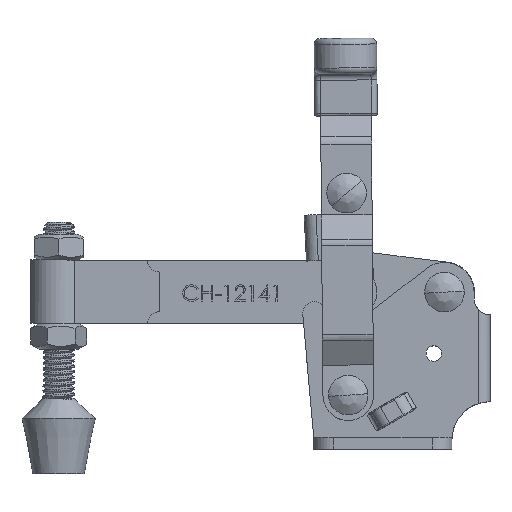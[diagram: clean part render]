
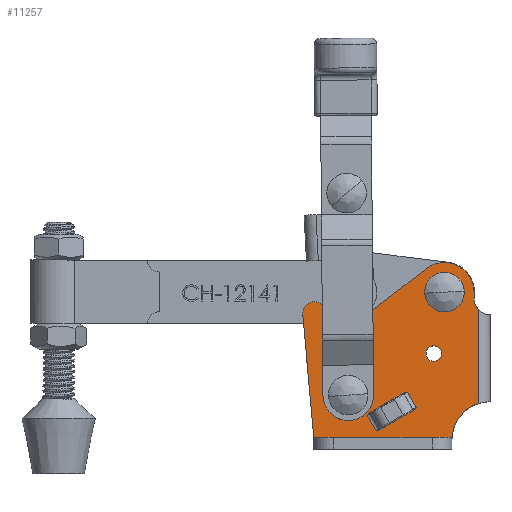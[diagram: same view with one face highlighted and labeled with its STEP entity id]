
A CAD part, top view. The second image highlights one B-rep face of the part: STEP entity #11257.
In plain terms, the highlighted planar face has unit normal (0, 0, 1).
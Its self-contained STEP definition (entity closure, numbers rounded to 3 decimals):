
#350=B_SPLINE_CURVE_WITH_KNOTS('',3,(#15746,#15747,#15748,#15749),
 .UNSPECIFIED.,.F.,.F.,(4,4),(-0.085,0.),.UNSPECIFIED.);
#351=B_SPLINE_CURVE_WITH_KNOTS('',3,(#15753,#15754,#15755,#15756),
 .UNSPECIFIED.,.F.,.F.,(4,4),(-0.278,-0.193),
 .UNSPECIFIED.);
#352=B_SPLINE_CURVE_WITH_KNOTS('',3,(#15760,#15761,#15762,#15763),
 .UNSPECIFIED.,.F.,.F.,(4,4),(-0.085,0.),.UNSPECIFIED.);
#353=B_SPLINE_CURVE_WITH_KNOTS('',3,(#15766,#15767,#15768,#15769),
 .UNSPECIFIED.,.F.,.F.,(4,4),(-0.278,-0.193),
 .UNSPECIFIED.);
#757=FACE_BOUND('',#1757,.T.);
#758=FACE_BOUND('',#1758,.T.);
#759=FACE_BOUND('',#1759,.T.);
#760=FACE_BOUND('',#1760,.T.);
#835=PLANE('',#12130);
#1127=FACE_OUTER_BOUND('',#1756,.T.);
#1756=EDGE_LOOP('',(#7713,#7714,#7715,#7716,#7717,#7718,#7719,#7720,#7721,
#7722,#7723,#7724));
#1757=EDGE_LOOP('',(#7725,#7726));
#1758=EDGE_LOOP('',(#7727,#7728));
#1759=EDGE_LOOP('',(#7729,#7730));
#1760=EDGE_LOOP('',(#7731,#7732,#7733,#7734,#7735,#7736,#7737,#7738));
#2470=LINE('',#15723,#3432);
#2471=LINE('',#15725,#3433);
#2472=LINE('',#15729,#3434);
#2473=LINE('',#15733,#3435);
#2474=LINE('',#15737,#3436);
#2475=LINE('',#15740,#3437);
#2476=LINE('',#15741,#3438);
#2477=LINE('',#15744,#3439);
#2478=LINE('',#15751,#3440);
#2479=LINE('',#15758,#3441);
#2480=LINE('',#15765,#3442);
#3432=VECTOR('',#13067,1000.);
#3433=VECTOR('',#13068,1000.);
#3434=VECTOR('',#13071,1000.);
#3435=VECTOR('',#13074,1000.);
#3436=VECTOR('',#13077,1000.);
#3437=VECTOR('',#13080,1000.);
#3438=VECTOR('',#13081,1000.);
#3439=VECTOR('',#13082,1000.);
#3440=VECTOR('',#13083,1000.);
#3441=VECTOR('',#13084,1000.);
#3442=VECTOR('',#13085,1000.);
#4397=CIRCLE('',#12105,3.);
#4399=CIRCLE('',#12108,1.95);
#4402=CIRCLE('',#12111,1.95);
#4403=CIRCLE('',#12113,3.2);
#4406=CIRCLE('',#12116,3.2);
#4407=CIRCLE('',#12118,3.2);
#4410=CIRCLE('',#12121,3.2);
#4417=CIRCLE('',#12131,9.5);
#4418=CIRCLE('',#12132,4.);
#4419=CIRCLE('',#12133,7.5);
#4420=CIRCLE('',#12134,7.);
#4751=VERTEX_POINT('',#15643);
#4752=VERTEX_POINT('',#15644);
#4755=VERTEX_POINT('',#15652);
#4756=VERTEX_POINT('',#15653);
#4759=VERTEX_POINT('',#15662);
#4760=VERTEX_POINT('',#15663);
#4763=VERTEX_POINT('',#15672);
#4764=VERTEX_POINT('',#15673);
#4785=VERTEX_POINT('',#15721);
#4786=VERTEX_POINT('',#15722);
#4787=VERTEX_POINT('',#15724);
#4788=VERTEX_POINT('',#15726);
#4789=VERTEX_POINT('',#15728);
#4790=VERTEX_POINT('',#15730);
#4791=VERTEX_POINT('',#15732);
#4792=VERTEX_POINT('',#15734);
#4793=VERTEX_POINT('',#15736);
#4794=VERTEX_POINT('',#15738);
#4795=VERTEX_POINT('',#15742);
#4796=VERTEX_POINT('',#15743);
#4797=VERTEX_POINT('',#15745);
#4798=VERTEX_POINT('',#15750);
#4799=VERTEX_POINT('',#15752);
#4800=VERTEX_POINT('',#15757);
#4801=VERTEX_POINT('',#15759);
#4802=VERTEX_POINT('',#15764);
#5923=EDGE_CURVE('',#4751,#4752,#4397,.T.);
#5927=EDGE_CURVE('',#4755,#4756,#4399,.T.);
#5931=EDGE_CURVE('',#4756,#4755,#4402,.T.);
#5932=EDGE_CURVE('',#4759,#4760,#4403,.T.);
#5936=EDGE_CURVE('',#4760,#4759,#4406,.T.);
#5937=EDGE_CURVE('',#4763,#4764,#4407,.T.);
#5941=EDGE_CURVE('',#4764,#4763,#4410,.T.);
#5961=EDGE_CURVE('',#4785,#4786,#2470,.T.);
#5962=EDGE_CURVE('',#4787,#4785,#2471,.T.);
#5963=EDGE_CURVE('',#4787,#4788,#4417,.T.);
#5964=EDGE_CURVE('',#4788,#4789,#2472,.T.);
#5965=EDGE_CURVE('',#4789,#4790,#4418,.T.);
#5966=EDGE_CURVE('',#4790,#4791,#2473,.T.);
#5967=EDGE_CURVE('',#4791,#4792,#4419,.T.);
#5968=EDGE_CURVE('',#4792,#4793,#2474,.T.);
#5969=EDGE_CURVE('',#4793,#4794,#4420,.T.);
#5970=EDGE_CURVE('',#4794,#4751,#2475,.T.);
#5971=EDGE_CURVE('',#4752,#4786,#2476,.T.);
#5972=EDGE_CURVE('',#4795,#4796,#2477,.T.);
#5973=EDGE_CURVE('',#4795,#4797,#350,.T.);
#5974=EDGE_CURVE('',#4797,#4798,#2478,.T.);
#5975=EDGE_CURVE('',#4798,#4799,#351,.T.);
#5976=EDGE_CURVE('',#4800,#4799,#2479,.T.);
#5977=EDGE_CURVE('',#4800,#4801,#352,.T.);
#5978=EDGE_CURVE('',#4801,#4802,#2480,.T.);
#5979=EDGE_CURVE('',#4802,#4796,#353,.T.);
#7713=ORIENTED_EDGE('',*,*,#5961,.F.);
#7714=ORIENTED_EDGE('',*,*,#5962,.F.);
#7715=ORIENTED_EDGE('',*,*,#5963,.T.);
#7716=ORIENTED_EDGE('',*,*,#5964,.T.);
#7717=ORIENTED_EDGE('',*,*,#5965,.T.);
#7718=ORIENTED_EDGE('',*,*,#5966,.T.);
#7719=ORIENTED_EDGE('',*,*,#5967,.T.);
#7720=ORIENTED_EDGE('',*,*,#5968,.T.);
#7721=ORIENTED_EDGE('',*,*,#5969,.T.);
#7722=ORIENTED_EDGE('',*,*,#5970,.T.);
#7723=ORIENTED_EDGE('',*,*,#5923,.T.);
#7724=ORIENTED_EDGE('',*,*,#5971,.T.);
#7725=ORIENTED_EDGE('',*,*,#5932,.F.);
#7726=ORIENTED_EDGE('',*,*,#5936,.F.);
#7727=ORIENTED_EDGE('',*,*,#5937,.F.);
#7728=ORIENTED_EDGE('',*,*,#5941,.F.);
#7729=ORIENTED_EDGE('',*,*,#5927,.F.);
#7730=ORIENTED_EDGE('',*,*,#5931,.F.);
#7731=ORIENTED_EDGE('',*,*,#5972,.F.);
#7732=ORIENTED_EDGE('',*,*,#5973,.T.);
#7733=ORIENTED_EDGE('',*,*,#5974,.T.);
#7734=ORIENTED_EDGE('',*,*,#5975,.T.);
#7735=ORIENTED_EDGE('',*,*,#5976,.F.);
#7736=ORIENTED_EDGE('',*,*,#5977,.T.);
#7737=ORIENTED_EDGE('',*,*,#5978,.T.);
#7738=ORIENTED_EDGE('',*,*,#5979,.T.);
#11257=ADVANCED_FACE('',(#1127,#757,#758,#759,#760),#835,.T.);
#12105=AXIS2_PLACEMENT_3D('',#15645,#12997,#12998);
#12108=AXIS2_PLACEMENT_3D('',#15654,#13005,#13006);
#12111=AXIS2_PLACEMENT_3D('',#15660,#13012,#13013);
#12113=AXIS2_PLACEMENT_3D('',#15664,#13016,#13017);
#12116=AXIS2_PLACEMENT_3D('',#15670,#13023,#13024);
#12118=AXIS2_PLACEMENT_3D('',#15674,#13027,#13028);
#12121=AXIS2_PLACEMENT_3D('',#15680,#13034,#13035);
#12130=AXIS2_PLACEMENT_3D('',#15720,#13065,#13066);
#12131=AXIS2_PLACEMENT_3D('',#15727,#13069,#13070);
#12132=AXIS2_PLACEMENT_3D('',#15731,#13072,#13073);
#12133=AXIS2_PLACEMENT_3D('',#15735,#13075,#13076);
#12134=AXIS2_PLACEMENT_3D('',#15739,#13078,#13079);
#12997=DIRECTION('center_axis',(0.,0.,1.));
#12998=DIRECTION('ref_axis',(1.,0.,0.));
#13005=DIRECTION('center_axis',(0.,0.,1.));
#13006=DIRECTION('ref_axis',(1.,0.,0.));
#13012=DIRECTION('center_axis',(0.,0.,1.));
#13013=DIRECTION('ref_axis',(1.,0.,0.));
#13016=DIRECTION('center_axis',(0.,0.,1.));
#13017=DIRECTION('ref_axis',(1.,0.,0.));
#13023=DIRECTION('center_axis',(0.,0.,1.));
#13024=DIRECTION('ref_axis',(1.,0.,0.));
#13027=DIRECTION('center_axis',(0.,0.,1.));
#13028=DIRECTION('ref_axis',(1.,0.,0.));
#13034=DIRECTION('center_axis',(0.,0.,1.));
#13035=DIRECTION('ref_axis',(1.,0.,0.));
#13065=DIRECTION('center_axis',(0.,0.,1.));
#13066=DIRECTION('ref_axis',(1.,0.,0.));
#13067=DIRECTION('',(-1.,0.,0.));
#13068=DIRECTION('',(0.,1.,0.));
#13069=DIRECTION('center_axis',(0.,0.,-1.));
#13070=DIRECTION('ref_axis',(1.,0.,0.));
#13071=DIRECTION('',(0.,1.,0.));
#13072=DIRECTION('center_axis',(0.,0.,-1.));
#13073=DIRECTION('ref_axis',(1.,0.,0.));
#13074=DIRECTION('',(0.,1.,0.));
#13075=DIRECTION('center_axis',(0.,0.,1.));
#13076=DIRECTION('ref_axis',(1.,0.,0.));
#13077=DIRECTION('',(-0.792,-0.611,0.));
#13078=DIRECTION('center_axis',(0.,0.,-1.));
#13079=DIRECTION('ref_axis',(1.,0.,0.));
#13080=DIRECTION('',(-0.677,0.736,0.));
#13081=DIRECTION('',(0.09,-0.996,0.));
#13082=DIRECTION('',(0.866,0.5,0.));
#13083=DIRECTION('',(-0.5,0.866,0.));
#13084=DIRECTION('',(-0.866,-0.5,0.));
#13085=DIRECTION('',(0.5,-0.866,0.));
#15643=CARTESIAN_POINT('',(-32.494,36.33,12.));
#15644=CARTESIAN_POINT('',(-37.691,34.031,12.));
#15645=CARTESIAN_POINT('Origin',(-34.703,34.3,12.));
#15652=CARTESIAN_POINT('',(-6.55,24.2,12.));
#15653=CARTESIAN_POINT('',(-2.65,24.2,12.));
#15654=CARTESIAN_POINT('Origin',(-4.6,24.2,12.));
#15660=CARTESIAN_POINT('Origin',(-4.6,24.2,12.));
#15662=CARTESIAN_POINT('',(-29.4,13.7,12.));
#15663=CARTESIAN_POINT('',(-23.,13.7,12.));
#15664=CARTESIAN_POINT('Origin',(-26.2,13.7,12.));
#15670=CARTESIAN_POINT('Origin',(-26.2,13.7,12.));
#15672=CARTESIAN_POINT('',(-5.1,39.7,12.));
#15673=CARTESIAN_POINT('',(1.3,39.7,12.));
#15674=CARTESIAN_POINT('Origin',(-1.9,39.7,12.));
#15680=CARTESIAN_POINT('Origin',(-1.9,39.7,12.));
#15720=CARTESIAN_POINT('Origin',(9.5,2.5,12.));
#15721=CARTESIAN_POINT('',(0.,3.,12.));
#15722=CARTESIAN_POINT('',(-34.9,3.,12.));
#15723=CARTESIAN_POINT('',(0.,3.,12.));
#15724=CARTESIAN_POINT('',(0.,2.5,12.));
#15725=CARTESIAN_POINT('',(0.,0.,12.));
#15726=CARTESIAN_POINT('',(6.6,11.547,12.));
#15727=CARTESIAN_POINT('Origin',(9.5,2.5,12.));
#15728=CARTESIAN_POINT('',(6.6,35.354,12.));
#15729=CARTESIAN_POINT('',(6.6,34.,12.));
#15730=CARTESIAN_POINT('',(5.6,38.,12.));
#15731=CARTESIAN_POINT('Origin',(9.6,38.,12.));
#15732=CARTESIAN_POINT('',(5.6,39.7,12.));
#15733=CARTESIAN_POINT('',(5.6,39.7,12.));
#15734=CARTESIAN_POINT('',(-6.481,45.639,12.));
#15735=CARTESIAN_POINT('Origin',(-1.9,39.7,12.));
#15736=CARTESIAN_POINT('',(-21.625,33.957,12.));
#15737=CARTESIAN_POINT('',(-21.625,33.957,12.));
#15738=CARTESIAN_POINT('',(-31.053,34.763,12.));
#15739=CARTESIAN_POINT('Origin',(-25.9,39.5,12.));
#15740=CARTESIAN_POINT('',(-32.494,36.33,12.));
#15741=CARTESIAN_POINT('',(-34.9,3.,12.));
#15742=CARTESIAN_POINT('',(-18.317,4.914,12.));
#15743=CARTESIAN_POINT('',(-9.583,9.956,12.));
#15744=CARTESIAN_POINT('',(-18.28,4.935,12.));
#15745=CARTESIAN_POINT('',(-19.186,4.758,12.));
#15746=CARTESIAN_POINT('Ctrl Pts',(-18.317,4.914,12.));
#15747=CARTESIAN_POINT('Ctrl Pts',(-18.562,4.772,12.));
#15748=CARTESIAN_POINT('Ctrl Pts',(-18.903,4.765,12.));
#15749=CARTESIAN_POINT('Ctrl Pts',(-19.186,4.758,12.));
#15750=CARTESIAN_POINT('',(-21.386,8.569,12.));
#15751=CARTESIAN_POINT('',(-21.536,8.829,12.));
#15752=CARTESIAN_POINT('',(-20.817,9.244,12.));
#15753=CARTESIAN_POINT('Ctrl Pts',(-21.386,8.569,12.));
#15754=CARTESIAN_POINT('Ctrl Pts',(-21.239,8.811,12.));
#15755=CARTESIAN_POINT('Ctrl Pts',(-21.062,9.102,12.));
#15756=CARTESIAN_POINT('Ctrl Pts',(-20.817,9.244,12.));
#15757=CARTESIAN_POINT('',(-12.083,14.286,12.));
#15758=CARTESIAN_POINT('',(-20.78,9.265,12.));
#15759=CARTESIAN_POINT('',(-11.214,14.442,12.));
#15760=CARTESIAN_POINT('Ctrl Pts',(-12.083,14.286,12.));
#15761=CARTESIAN_POINT('Ctrl Pts',(-11.838,14.428,12.));
#15762=CARTESIAN_POINT('Ctrl Pts',(-11.497,14.435,12.));
#15763=CARTESIAN_POINT('Ctrl Pts',(-11.214,14.442,12.));
#15764=CARTESIAN_POINT('',(-9.014,10.631,12.));
#15765=CARTESIAN_POINT('',(-8.864,10.371,12.));
#15766=CARTESIAN_POINT('Ctrl Pts',(-9.014,10.631,12.));
#15767=CARTESIAN_POINT('Ctrl Pts',(-9.161,10.389,12.));
#15768=CARTESIAN_POINT('Ctrl Pts',(-9.338,10.098,12.));
#15769=CARTESIAN_POINT('Ctrl Pts',(-9.583,9.956,12.));
